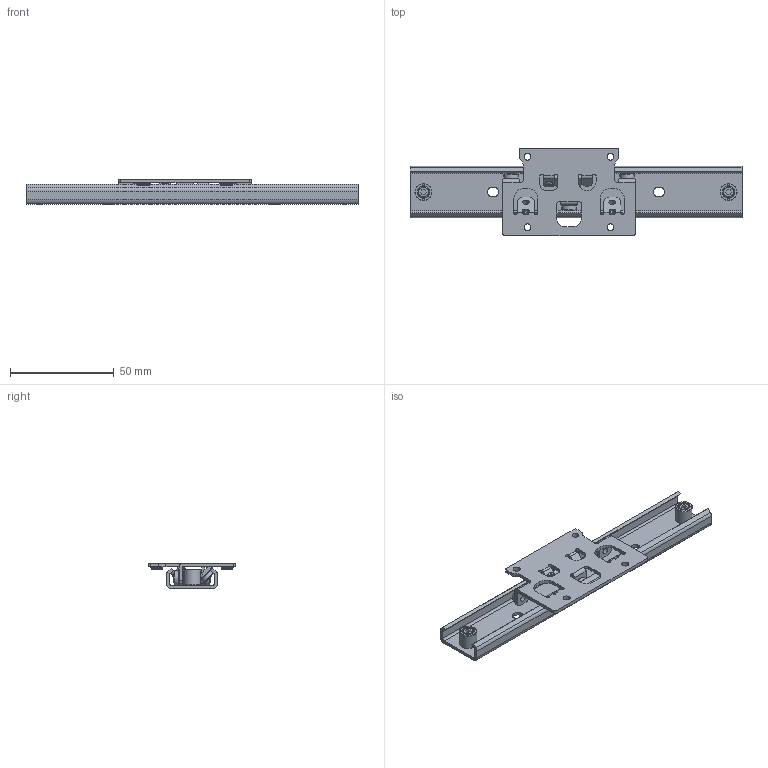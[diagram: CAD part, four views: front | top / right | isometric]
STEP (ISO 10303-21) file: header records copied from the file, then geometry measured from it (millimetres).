
FILE_DESCRIPTION((''),'1');
FILE_NAME('C:/Users/t-inoue/Desktop/25SW0160SS hp.stp','2016-07-29T02:13:41',(''),(''),'Spatial Interop R21 SP3','Kubotek KeyCreator 2011 V10.0.2 (22737)',' ');
FILE_SCHEMA(('automotive_design'));
Length unit declared in the file: millimetre
Products named in the file (414): Unnamed[1]
Bounding box: 160 x 42 x 12 mm (x, y, z)
Surface area: 20801.7 mm2 (no closed solid volume)
Topology: 0 solids, 414 shells, 414 faces, 1742 edges, 1585 vertices
Faces by surface type: plane 178, cylinder 122, cone 105, torus 8, sphere 1
Full cylindrical faces by diameter (mm): 1.6 x1, 3.2 x6, 3.3 x4, 3.5 x1, 4 x10, 5 x6, 5.5 x4, 5.6 x2, 7 x6, 8.2 x2
Entity records: 35138 total; most frequent: CARTESIAN_POINT 4208, DIRECTION 4001, PRESENTATION_STYLE_ASSIGNMENT 1656, COLOUR_RGB 1656, AXIS2_PLACEMENT_3D 1623, ORIENTED_EDGE 1558, EDGE_CURVE 1558, VERTEX_POINT 1558
